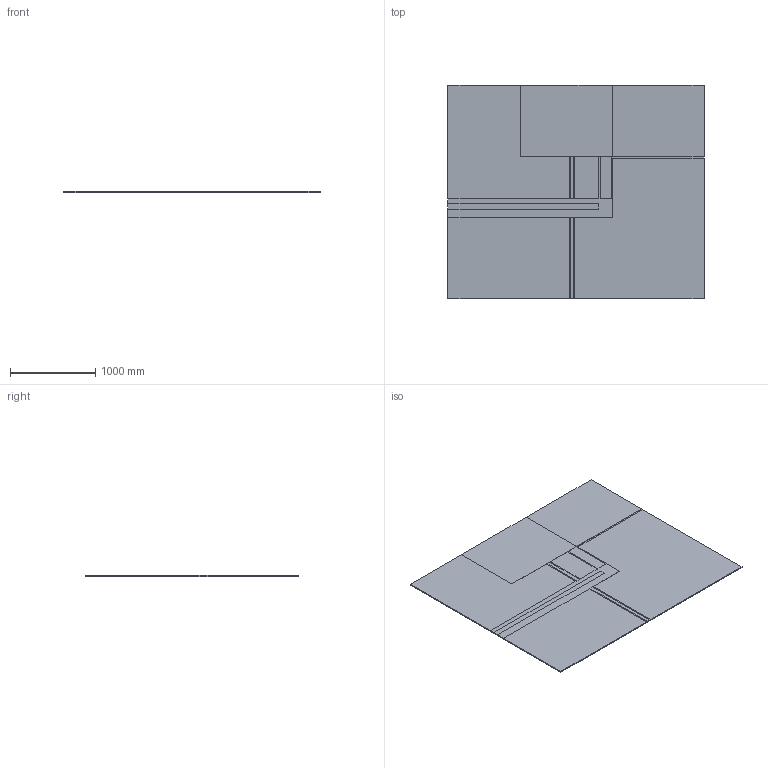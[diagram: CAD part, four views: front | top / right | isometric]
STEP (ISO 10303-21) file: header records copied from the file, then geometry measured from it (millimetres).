
FILE_DESCRIPTION(/* description */ (''),/* implementation_level */ '2;1');
FILE_NAME(/* name */ 'Wendingen-Rug_300x250_3D_20231017',/* time_stamp */ '2023-10-17T14:55:28+02:00',/* author */ (''),/* organization */ (''),/* preprocessor_version */ 'ST-DEVELOPER v16.5',/* originating_system */ 'Rhino 7.34',/* authorisation */ '');
FILE_SCHEMA (('CONFIG_CONTROL_DESIGN'));
Length unit declared in the file: millimetre
Products named in the file (1): Document
Bounding box: 3000 x 2500 x 12 mm (x, y, z)
Volume: 90000000 mm3; surface area: 15617400 mm2
Topology: 11 solids, 11 shells, 115 faces, 279 edges, 186 vertices
Faces by surface type: plane 115
Entity records: 2971 total; most frequent: CARTESIAN_POINT 867, ORIENTED_EDGE 558, EDGE_CURVE 279, B_SPLINE_CURVE_WITH_KNOTS 279, VERTEX_POINT 186, DIRECTION 119, AXIS2_PLACEMENT_3D 117, ADVANCED_FACE 115
